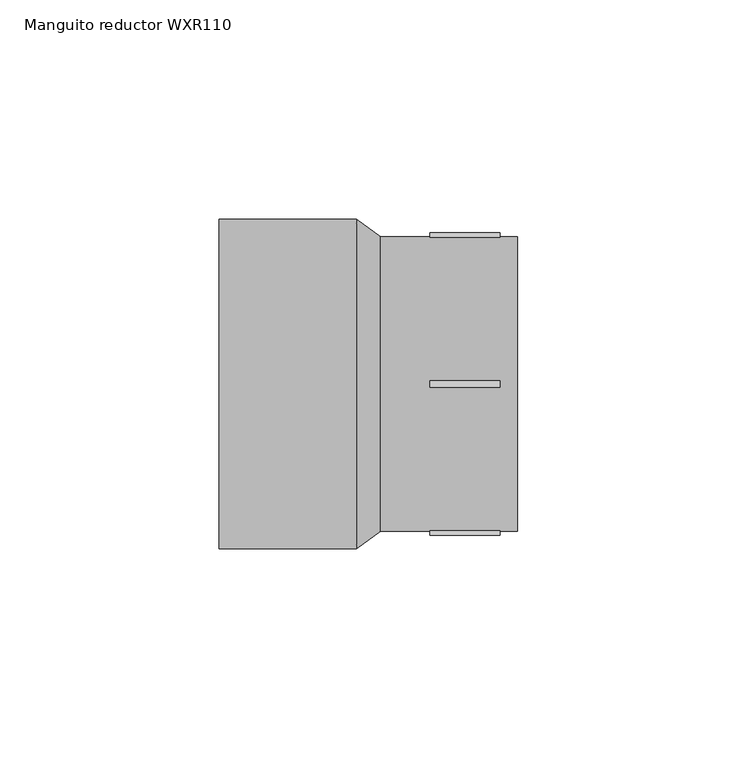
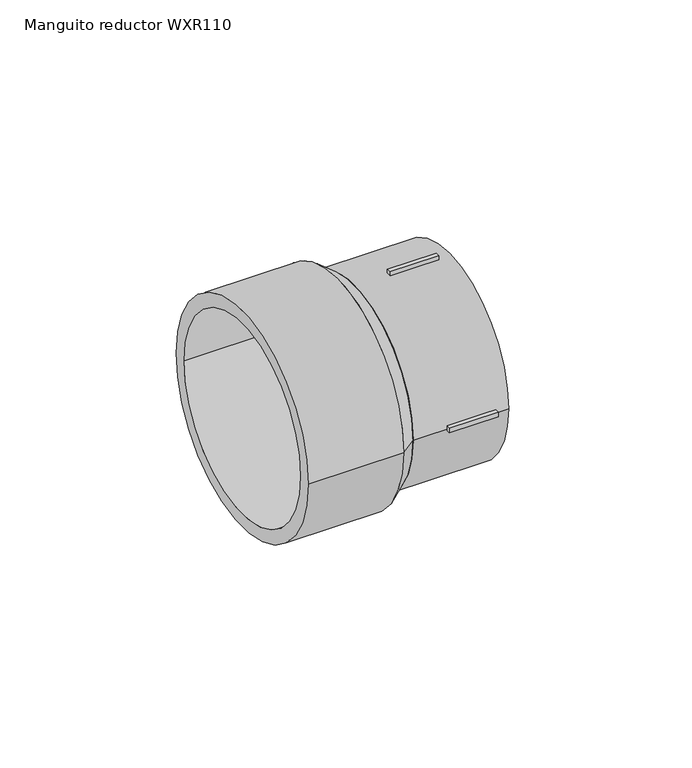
"""IFC4 building model written with IfcOpenShell, lengths in millimetres: pipe fitting geometry, EGB_VASEN_ PPR_Manguito reductor WXR110 : Manguito reductor WXR110."""

from ifc_helpers import new_model, si_unit, point, frame, origin, origin_2d, place, context, project, spatial, polyline, circle_curve, trimmed, segment, composite_curve, outline, extrude, source, transform, mapped, element, save
from ifc_brep_helpers import plane_surface, revolved_surface, advanced_brep


def manguito_reductor_wxr110_f529971f(model_context):
    return source(origin(), model_context, "Body", "SolidModel", [
        extrude(outline(polyline([(14.0, -0.75), (14.0, 0.75), (30.0, 0.75), (30.0, -0.75), (14.0, -0.75)])), frame((0.0, 0.0, 32.5), z_axis=(0.0, 0.0, 1.0), x_axis=(1.0, 0.0, 0.0)), (0.0, 0.0, 1.0), 2.0),
        extrude(outline(polyline([(14.0, -0.75), (14.0, 0.75), (30.0, 0.75), (30.0, -0.75), (14.0, -0.75)])), frame((0.0, 0.0, -34.5), z_axis=(0.0, 0.0, 1.0), x_axis=(1.0, 0.0, 0.0)), (0.0, 0.0, 1.0), 2.0),
        extrude(outline(polyline([(14.0, 32.5), (14.0, 34.5), (30.0, 34.5), (30.0, 32.5), (14.0, 32.5)])), frame((0.0, 0.0, -0.75), z_axis=(0.0, 0.0, 1.0), x_axis=(1.0, 0.0, 0.0)), (0.0, 0.0, 1.0), 1.5),
        extrude(outline(polyline([(14.0, -34.5), (14.0, -32.5), (30.0, -32.5), (30.0, -34.5), (14.0, -34.5)])), frame((0.0, 0.0, -0.75), z_axis=(0.0, 0.0, 1.0), x_axis=(1.0, 0.0, 0.0)), (0.0, 0.0, 1.0), 1.5),
        extrude(outline(composite_curve([segment(trimmed(circle_curve(origin_2d(), 33.5), [point((-33.5, 0.0))], [point((33.5, 0.0))], False, "CARTESIAN"), True, "CONTINUOUS"), segment(trimmed(circle_curve(origin_2d(), 33.5), [point((33.5, 0.0))], [point((-33.5, 0.0))], False, "CARTESIAN"), True, "CONTINUOUS")], self_intersect=False), holes=[composite_curve([segment(trimmed(circle_curve(origin_2d(), 25.0), [point((-25.0, 0.0))], [point((25.0, 0.0))], True, "CARTESIAN"), True, "CONTINUOUS"), segment(trimmed(circle_curve(origin_2d(), 25.0), [point((25.0, 0.0))], [point((-25.0, 0.0))], True, "CARTESIAN"), True, "CONTINUOUS")], self_intersect=False)]), frame((2.72, 0.0, 0.0), z_axis=(1.0, 0.0, 0.0), x_axis=(0.0, 1.0, 0.0)), (0.0, 0.0, 1.0), 31.28),
        extrude(outline(composite_curve([segment(trimmed(circle_curve(origin_2d(), 37.5), [point((-37.5, 0.0))], [point((37.5, 0.0))], False, "CARTESIAN"), True, "CONTINUOUS"), segment(trimmed(circle_curve(origin_2d(), 37.5), [point((37.5, 0.0))], [point((-37.5, 0.0))], False, "CARTESIAN"), True, "CONTINUOUS")], self_intersect=False), holes=[composite_curve([segment(trimmed(circle_curve(origin_2d(), 33.0), [point((-33.0, 0.0))], [point((33.0, 0.0))], True, "CARTESIAN"), True, "CONTINUOUS"), segment(trimmed(circle_curve(origin_2d(), 33.0), [point((33.0, 0.0))], [point((-33.0, 0.0))], True, "CARTESIAN"), True, "CONTINUOUS")], self_intersect=False)]), frame((-34.0, 0.0, 0.0), z_axis=(1.0, 0.0, 0.0), x_axis=(0.0, 1.0, 0.0)), (0.0, 0.0, 1.0), 31.28),
        advanced_brep(
        [(2.72, -33.5, 0.0), (2.72, 33.5, 0.0), (-2.72, -37.5, 0.0), (-2.72, 37.5, 0.0)],
        [
            (0, 1, circle_curve(frame((2.72, 0.0, 0.0), z_axis=(1.0, 0.0, 0.0), x_axis=(0.0, -1.0, 0.0)), 33.5)),
            (1, 0, circle_curve(frame((2.72, 0.0, 0.0), z_axis=(1.0, 0.0, 0.0), x_axis=(0.0, 1.0, 0.0)), 33.5)),
            (2, 3, circle_curve(frame((-2.72, 0.0, 0.0), z_axis=(-1.0, 0.0, 0.0), x_axis=(0.0, 1.0, 0.0)), 37.5)),
            (3, 2, circle_curve(frame((-2.72, 0.0, 0.0), z_axis=(-1.0, 0.0, 0.0), x_axis=(0.0, -1.0, 0.0)), 37.5)),
            (3, 1),
            (0, 2),
        ],
        [
            plane_surface(frame((2.72, 0.0, 0.0), z_axis=(1.0, 0.0, 0.0), x_axis=(0.0, 0.0, -1.0))),
            plane_surface(frame((-2.72, 0.0, 0.0), z_axis=(-1.0, 0.0, 0.0), x_axis=(0.0, 0.0, -1.0))),
            revolved_surface(polyline([(2.719999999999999, -33.5, 0.0), (-2.719999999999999, -37.5, 0.0)]), (48.28, 0.0, 0.0), (-1.0, 0.0, 0.0)),
            revolved_surface(polyline([(2.719999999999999, 33.5, 0.0), (-2.719999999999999, 37.5, 0.0)]), (48.28, 0.0, 0.0), (-1.0, 0.0, 0.0)),
        ],
        [
            (0, [[1, 2]]),
            (1, [[3, 4]]),
            (2, [[-4, 5, -1, 6]]),
            (3, [[-3, -6, -2, -5]]),
        ],
    ),
    ])


if __name__ == "__main__":
    model = new_model("IFC4")
    model_context = context("Model", 3, world=origin())
    ifc_project = project(units=[si_unit("LENGTHUNIT", "METRE", prefix="MILLI")], contexts=[model_context])
    site = spatial("IfcSite", under=ifc_project)
    building = spatial("IfcBuilding", under=site)
    placement = place(None, origin())
    manguito_reductor_wxr110_shape = manguito_reductor_wxr110_f529971f(model_context)
    element("IfcPipeFitting", 1, ObjectType="EGB_VASEN_ PPR_Manguito reductor WXR110 : Manguito reductor WXR110", at=placement, inside=building, context=model_context, shape_type="MappedRepresentation", body=[
        mapped(manguito_reductor_wxr110_shape, transform((0.0, 0.0, 0.0), x_axis=(1.0, 0.0, 0.0), y_axis=(0.0, 1.0, 0.0), z_axis=(0.0, 0.0, 1.0))),
    ])
    save(model, "model.ifc")
